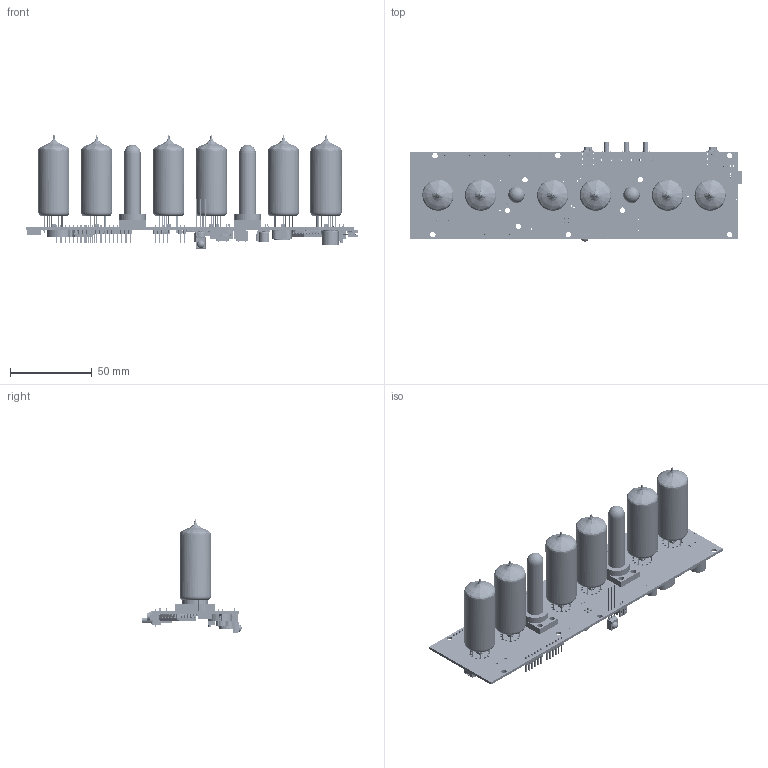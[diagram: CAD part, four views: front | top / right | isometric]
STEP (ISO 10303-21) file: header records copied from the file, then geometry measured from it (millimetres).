
FILE_DESCRIPTION(('Open CASCADE Model'),'2;1');
FILE_NAME('Open CASCADE Shape Model','2020-04-03T01:24:58',('Author'),( 'Open CASCADE'),'Open CASCADE STEP processor 6.8','Open CASCADE 6.8' ,'Unknown');
FILE_SCHEMA(('AUTOMOTIVE_DESIGN { 1 0 10303 214 1 1 1 1 }'));
Length unit declared in the file: millimetre
Products named in the file (1): PCB
Bounding box: 202.52 x 60.6 x 69.2 mm (x, y, z)
Volume: 26253.5 mm3; surface area: 66582.1 mm2
Topology: 82 solids, 5429 shells, 12150 faces, 45564 edges, 38185 vertices
Faces by surface type: plane 7229, cylinder 3475, bspline 907, sphere 460, cone 45, torus 34
Full cylindrical faces by diameter (mm): 0.7 x1, 0.8 x12, 0.9 x67, 1.1 x7, 1.3 x18, 1.4 x79, 1.5 x4, 3.3 x11
Entity records: 555409 total; most frequent: CARTESIAN_POINT 142632, DIRECTION 73401, ORIENTED_EDGE 61459, EDGE_CURVE 44958, VERTEX_POINT 38185, LINE 32277, VECTOR 32277, AXIS2_PLACEMENT_3D 20562
